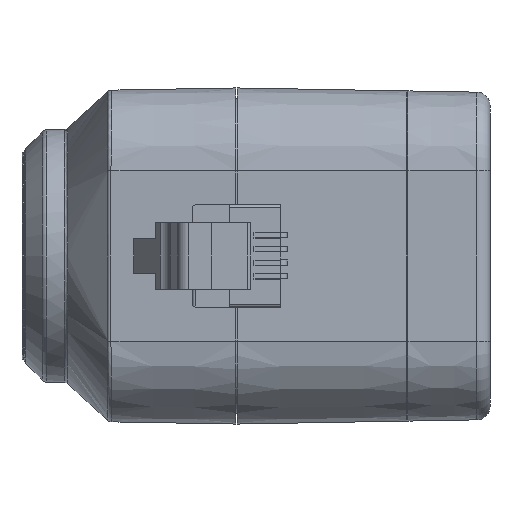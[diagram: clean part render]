
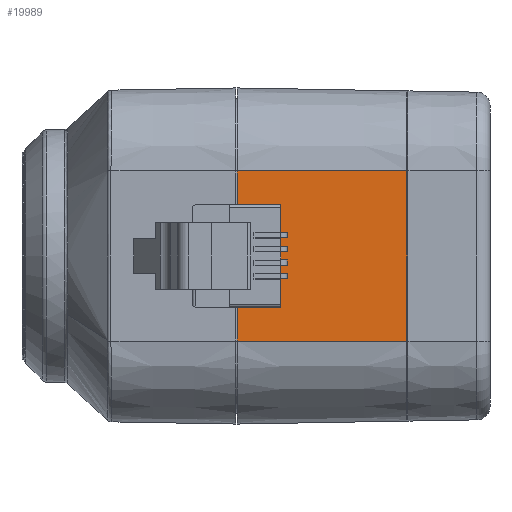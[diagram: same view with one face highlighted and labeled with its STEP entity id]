
A CAD part, left-side view. The second image highlights one B-rep face of the part: STEP entity #19989.
In plain terms, the highlighted planar face has unit normal (-1, -0.018, 0).
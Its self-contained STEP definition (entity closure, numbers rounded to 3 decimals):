
#112 = VERTEX_POINT ( 'NONE', #19972 ) ;
#201 = CARTESIAN_POINT ( 'NONE',  ( -12.509, 13.501, 2.925 ) ) ;
#438 = CARTESIAN_POINT ( 'NONE',  ( -12.55, 15.825, 6.35 ) ) ;
#592 = CARTESIAN_POINT ( 'NONE',  ( -12.55, 15.825, 6.35 ) ) ;
#618 = VECTOR ( 'NONE', #6352, 1000. ) ;
#714 = DIRECTION ( 'NONE',  ( -0.017, 1., 0. ) ) ;
#964 = EDGE_CURVE ( 'NONE', #16619, #112, #22624, .T. ) ;
#1153 = ORIENTED_EDGE ( 'NONE', *, *, #19036, .T. ) ;
#1296 = DIRECTION ( 'NONE',  ( 0.017, -1., 0. ) ) ;
#1480 = EDGE_CURVE ( 'NONE', #4572, #21911, #5609, .T. ) ;
#1493 = DIRECTION ( 'NONE',  ( 0., 0., 1. ) ) ;
#1718 = EDGE_CURVE ( 'NONE', #2182, #21911, #23280, .T. ) ;
#2182 = VERTEX_POINT ( 'NONE', #9047 ) ;
#2347 = CARTESIAN_POINT ( 'NONE',  ( -12.55, 15.825, 6.35 ) ) ;
#2959 = LINE ( 'NONE', #16431, #20465 ) ;
#3290 = PLANE ( 'NONE',  #13071 ) ;
#3297 = ORIENTED_EDGE ( 'NONE', *, *, #964, .F. ) ;
#4026 = CARTESIAN_POINT ( 'NONE',  ( -12.329, 3.175, -6.35 ) ) ;
#4482 = CARTESIAN_POINT ( 'NONE',  ( -12.525, 14.404, -3.825 ) ) ;
#4572 = VERTEX_POINT ( 'NONE', #10293 ) ;
#4696 = ORIENTED_EDGE ( 'NONE', *, *, #18666, .T. ) ;
#4714 = LINE ( 'NONE', #19920, #618 ) ;
#4852 = CARTESIAN_POINT ( 'NONE',  ( -12.55, 15.825, 6.35 ) ) ;
#5090 = CARTESIAN_POINT ( 'NONE',  ( -12.547, 15.678, 3.821 ) ) ;
#5609 = LINE ( 'NONE', #2347, #11576 ) ;
#5622 = VECTOR ( 'NONE', #11921, 1000. ) ;
#5729 = VERTEX_POINT ( 'NONE', #24015 ) ;
#6292 = CARTESIAN_POINT ( 'NONE',  ( -12.509, 13.501, 6.35 ) ) ;
#6352 = DIRECTION ( 'NONE',  ( 0., 0., 1. ) ) ;
#6430 = CARTESIAN_POINT ( 'NONE',  ( -12.547, 15.678, 3.821 ) ) ;
#6494 = CARTESIAN_POINT ( 'NONE',  ( -12.509, 13.501, -2.925 ) ) ;
#7430 = CARTESIAN_POINT ( 'NONE',  ( -12.55, 15.825, 6.35 ) ) ;
#8184 = LINE ( 'NONE', #15813, #5622 ) ;
#8264 = CARTESIAN_POINT ( 'NONE',  ( -12.509, 13.501, -1.65 ) ) ;
#8719 = DIRECTION ( 'NONE',  ( 0.017, -1., 0.003 ) ) ;
#8910 = EDGE_CURVE ( 'NONE', #21643, #5729, #21704, .T. ) ;
#9047 = CARTESIAN_POINT ( 'NONE',  ( -12.329, 3.175, 6.35 ) ) ;
#9073 = ORIENTED_EDGE ( 'NONE', *, *, #11578, .T. ) ;
#9135 = EDGE_CURVE ( 'NONE', #5729, #21291, #9781, .T. ) ;
#9214 = VERTEX_POINT ( 'NONE', #17884 ) ;
#9781 = LINE ( 'NONE', #6292, #15290 ) ;
#10137 = DIRECTION ( 'NONE',  ( 0., 0., -1. ) ) ;
#10293 = CARTESIAN_POINT ( 'NONE',  ( -12.55, 15.825, 3.821 ) ) ;
#10706 = LINE ( 'NONE', #4852, #14509 ) ;
#11576 = VECTOR ( 'NONE', #17571, 1000. ) ;
#11578 = EDGE_CURVE ( 'NONE', #21161, #9214, #8184, .T. ) ;
#11921 = DIRECTION ( 'NONE',  ( -0.017, 1., 0.003 ) ) ;
#13071 = AXIS2_PLACEMENT_3D ( 'NONE', #7430, #20141, #1296 ) ;
#13113 =( BOUNDED_CURVE ( )  B_SPLINE_CURVE ( 3, ( #23589, #6494, #4482, #21840 ),
 .UNSPECIFIED., .F., .F. ) 
 B_SPLINE_CURVE_WITH_KNOTS ( ( 4, 4 ),
 ( 0., 1.574 ),
 .UNSPECIFIED. ) 
 CURVE ( )  GEOMETRIC_REPRESENTATION_ITEM ( )  RATIONAL_B_SPLINE_CURVE ( ( 1., 0.804, 0.804, 1. ) ) 
 REPRESENTATION_ITEM ( '' )  );
#13437 = ORIENTED_EDGE ( 'NONE', *, *, #1480, .F. ) ;
#13791 = CARTESIAN_POINT ( 'NONE',  ( -12.525, 14.404, 3.825 ) ) ;
#14361 = ORIENTED_EDGE ( 'NONE', *, *, #8910, .T. ) ;
#14509 = VECTOR ( 'NONE', #1493, 1000. ) ;
#15290 = VECTOR ( 'NONE', #10137, 1000. ) ;
#15314 = VECTOR ( 'NONE', #22492, 1000. ) ;
#15813 = CARTESIAN_POINT ( 'NONE',  ( -12.551, 15.856, -3.821 ) ) ;
#15815 = CARTESIAN_POINT ( 'NONE',  ( -12.509, 13.501, 1.65 ) ) ;
#16431 = CARTESIAN_POINT ( 'NONE',  ( -12.55, 15.817, 3.821 ) ) ;
#16619 = VERTEX_POINT ( 'NONE', #4026 ) ;
#17571 = DIRECTION ( 'NONE',  ( 0., 0., 1. ) ) ;
#17884 = CARTESIAN_POINT ( 'NONE',  ( -12.55, 15.825, -3.821 ) ) ;
#18666 = EDGE_CURVE ( 'NONE', #21291, #21161, #13113, .T. ) ;
#18734 = ORIENTED_EDGE ( 'NONE', *, *, #9135, .T. ) ;
#18957 = EDGE_CURVE ( 'NONE', #16619, #2182, #4714, .T. ) ;
#19036 = EDGE_CURVE ( 'NONE', #4572, #21643, #2959, .T. ) ;
#19778 = ORIENTED_EDGE ( 'NONE', *, *, #18957, .T. ) ;
#19920 = CARTESIAN_POINT ( 'NONE',  ( -12.329, 3.175, 6.35 ) ) ;
#19972 = CARTESIAN_POINT ( 'NONE',  ( -12.55, 15.825, -6.35 ) ) ;
#19989 = ADVANCED_FACE ( 'NONE', ( #22151 ), #3290, .T. ) ;
#20074 = VECTOR ( 'NONE', #714, 1000. ) ;
#20141 = DIRECTION ( 'NONE',  ( -1., -0.017, 0. ) ) ;
#20465 = VECTOR ( 'NONE', #8719, 1000. ) ;
#20604 = CARTESIAN_POINT ( 'NONE',  ( -12.55, 15.825, -6.35 ) ) ;
#21161 = VERTEX_POINT ( 'NONE', #22246 ) ;
#21291 = VERTEX_POINT ( 'NONE', #8264 ) ;
#21643 = VERTEX_POINT ( 'NONE', #5090 ) ;
#21704 =( BOUNDED_CURVE ( )  B_SPLINE_CURVE ( 3, ( #6430, #13791, #201, #15815 ),
 .UNSPECIFIED., .F., .T. ) 
 B_SPLINE_CURVE_WITH_KNOTS ( ( 4, 4 ),
 ( 4.709, 6.283 ),
 .UNSPECIFIED. ) 
 CURVE ( )  GEOMETRIC_REPRESENTATION_ITEM ( )  RATIONAL_B_SPLINE_CURVE ( ( 1., 0.804, 0.804, 1. ) ) 
 REPRESENTATION_ITEM ( '' )  );
#21840 = CARTESIAN_POINT ( 'NONE',  ( -12.547, 15.678, -3.821 ) ) ;
#21911 = VERTEX_POINT ( 'NONE', #438 ) ;
#22085 = ORIENTED_EDGE ( 'NONE', *, *, #1718, .T. ) ;
#22151 = FACE_OUTER_BOUND ( 'NONE', #24347, .T. ) ;
#22246 = CARTESIAN_POINT ( 'NONE',  ( -12.547, 15.678, -3.821 ) ) ;
#22492 = DIRECTION ( 'NONE',  ( -0.017, 1., 0. ) ) ;
#22624 = LINE ( 'NONE', #20604, #15314 ) ;
#23211 = EDGE_CURVE ( 'NONE', #112, #9214, #10706, .T. ) ;
#23280 = LINE ( 'NONE', #592, #20074 ) ;
#23589 = CARTESIAN_POINT ( 'NONE',  ( -12.509, 13.501, -1.65 ) ) ;
#23728 = ORIENTED_EDGE ( 'NONE', *, *, #23211, .F. ) ;
#24015 = CARTESIAN_POINT ( 'NONE',  ( -12.509, 13.501, 1.65 ) ) ;
#24347 = EDGE_LOOP ( 'NONE', ( #4696, #9073, #23728, #3297, #19778, #22085, #13437, #1153, #14361, #18734 ) ) ;
